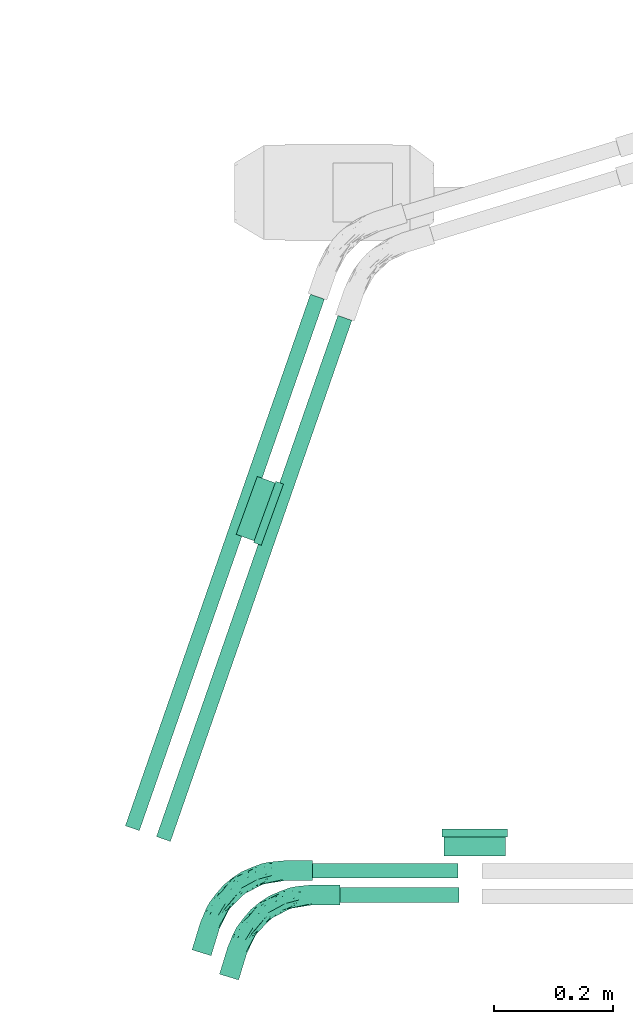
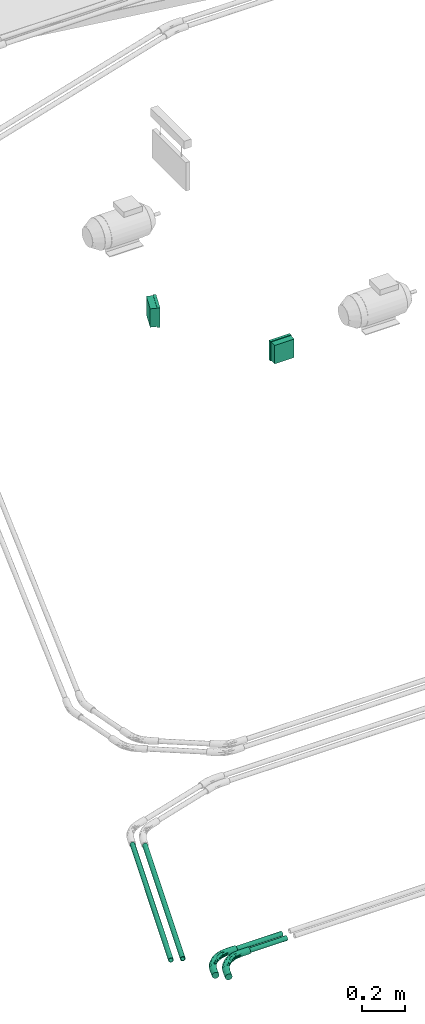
# One storey, part 2 of 22: 4 flow fittings, 4 flow segments.
"""IFC2X3 building model written with IfcOpenShell, lengths in millimetres."""

from ifc_helpers import new_model, entity, si_unit, converted_unit, derived_unit, direction, frame, origin_with_axes, origin_2d_with_axis, place, context, subcontext, project, spatial, hollow_circle, extrude, open_shell, surface_model, source, transform, mapped, type_object, element, save


model = new_model("IFC2X3")

# Units and contexts
model_context = context("Model", 3, precision=0.01, world=frame((0.0, 4.29681676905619e-09, 0.0)), true_north=direction((4.01073788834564e-13, 1.0)))
plan_context = context("Plan", 3, precision=0.01, world=frame((0.0, 4.29681676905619e-09, 0.0)), true_north=direction((4.01073788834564e-13, 1.0)))
body_context = subcontext(model_context, "Body", "Model", "MODEL_VIEW")
ifc_project = project(units=[converted_unit("PLANEANGLEUNIT", "DEGREE", entity("IfcPositiveLengthMeasure", 0.0174532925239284), si_unit("PLANEANGLEUNIT", "RADIAN"), dimensions=[0, 0, 0, 0, 0, 0, 0]), si_unit("AREAUNIT", "SQUARE_METRE"), si_unit("LENGTHUNIT", "METRE", prefix="MILLI"), si_unit("MASSUNIT", "GRAM", prefix="KILO"), si_unit("POWERUNIT", "WATT"), si_unit("PRESSUREUNIT", "PASCAL", prefix="KILO"), si_unit("FORCEUNIT", "NEWTON", prefix="KILO"), si_unit("ELECTRICVOLTAGEUNIT", "VOLT"), si_unit("ELECTRICCURRENTUNIT", "AMPERE"), si_unit("THERMODYNAMICTEMPERATUREUNIT", "DEGREE_CELSIUS"), si_unit("TIMEUNIT", "SECOND"), si_unit("VOLUMEUNIT", "CUBIC_METRE"), derived_unit("LINEARVELOCITYUNIT", [(si_unit("LENGTHUNIT", "METRE"), 1), (si_unit("TIMEUNIT", "SECOND"), -1)]), derived_unit("VOLUMETRICFLOWRATEUNIT", [(si_unit("VOLUMEUNIT", "CUBIC_METRE"), 1), (si_unit("TIMEUNIT", "SECOND"), -1)]), derived_unit("THERMALTRANSMITTANCEUNIT", [(si_unit("POWERUNIT", "WATT"), 1), (si_unit("THERMODYNAMICTEMPERATUREUNIT", "KELVIN"), -1), (si_unit("AREAUNIT", "SQUARE_METRE"), -1)]), derived_unit("SOUNDPRESSUREUNIT", [(si_unit("PRESSUREUNIT", "PASCAL"), 1)])], contexts=[model_context, plan_context])

# Site, building, storey
site_placement = place(None, frame((0.0, -4.29681676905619e-09, 0.0), z_axis=(0.0, 0.0, 1.0), x_axis=(1.0, 0.0, 0.0)))
site = spatial("IfcSite", under=ifc_project, at=site_placement, Name="ENGM", CompositionType="ELEMENT")
building_placement = place(site_placement, frame((0.0, 4.29681676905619e-09, 0.0), z_axis=(0.0, 0.0, 1.0), x_axis=(1.0, 0.0, 0.0)))
building = spatial("IfcBuilding", under=site, at=building_placement, Name="TI", CompositionType="ELEMENT")
storey_placement = place(building_placement, frame((0.0, 0.0, 210900.0), z_axis=(0.0, 0.0, 1.0), x_axis=(1.0, 0.0, 0.0)))
storey = spatial("IfcBuildingStorey", under=building, at=storey_placement, Name="Nivå F", CompositionType="ELEMENT", Elevation=210900.0)

# Flow fittings
cable_carrier_fitting_type = type_object("IfcCableCarrierFittingType", Name="Trekkerør, glatt bend", PredefinedType="BEND")
shared_shape_1 = source(origin_with_axes(), body_context, "Body", "SurfaceModel", [
    surface_model("IfcShellBasedSurfaceModel", [(-144.83616, 8.46055, -14.6541), (-144.83616, 4.3795, -16.34452), (-144.83616, 0.0, -16.92109), (-144.83616, 14.6541, -8.46055), (-144.83616, -8.46055, -14.6541), (-144.83616, 11.96502, -11.96502), (-144.83616, -16.92109, 0.0), (-144.83616, -16.34452, 4.3795), (-144.83616, -11.96502, -11.96502), (-144.83616, -14.6541, -8.46055), (-144.83616, -4.3795, -16.34452), (-144.83616, -16.34452, -4.3795), (-144.83616, 16.92109, 0.0), (-144.83616, 16.34452, -4.3795), (-144.83616, 16.34452, 4.3795), (-144.83616, 14.6541, 8.46055), (-144.83616, 8.46055, 14.6541), (-144.83616, 11.96502, 11.96502), (-144.83616, 0.0, 16.92109), (-144.83616, 4.3795, 16.34452), (-144.83616, -11.96502, 11.96502), (-144.83616, -8.46055, 14.6541), (-144.83616, -14.6541, 8.46055), (-144.83616, -4.3795, 16.34452), (-97.5182, -16.92109, 0.0), (-97.5182, -16.34452, 4.3795), (-97.5182, -14.6541, 8.46055), (-97.5182, -11.96502, 11.96502), (-97.5182, -8.46055, 14.6541), (-97.5182, -4.3795, 16.34452), (-97.5182, 0.0, 16.92109), (-97.5182, 4.3795, 16.34452), (-97.5182, 8.46055, 14.6541), (-97.5182, 11.96502, 11.96502), (-97.5182, 14.6541, 8.46055), (-97.5182, 16.34452, 4.3795), (-97.5182, 16.92109, 0.0), (-97.5182, 16.34452, -4.3795), (-97.5182, 14.6541, -8.46055), (-97.5182, 11.96502, -11.96502), (-97.5182, 8.46055, -14.6541), (-97.5182, 4.3795, -16.34452), (-97.5182, 0.0, -16.92109), (-97.5182, -4.3795, -16.34452), (-97.5182, -8.46055, -14.6541), (-97.5182, -11.96502, -11.96502), (-97.5182, -14.6541, -8.46055), (-97.5182, -16.34452, -4.3795), (16.90138, 61.62283, 16.74544), (28.51156, 93.25712, 16.92109), (14.59128, 66.41147, 16.80141), (-24.96889, 1.97658, 0.0), (-43.05229, -5.84501, 4.78595), (-60.03312, -12.11914, 0.0), (5.46892, 67.01508, 13.55745), (17.06936, 96.75535, 11.96502), (3.90246, 70.52636, 10.45944), (-71.299, -13.34893, 6.3159), (-72.3985, -14.5026, 3.05192), (-77.62003, 7.93822, 15.68444), (-65.68579, 14.36336, 13.55745), (-63.8039, -6.42333, 13.28828), (-40.53209, 16.58796, 16.60334), (-67.77568, 5.46313, 16.80141), (-42.51632, 11.97382, 16.92103), (-72.97787, -12.12532, 9.19826), (-75.57339, -4.85779, 15.57718), (-9.24433, 12.49299, 3.20205), (26.74105, 70.85092, 15.57718), (24.79711, 59.13797, 13.28828), (36.60242, 90.78349, 14.6541), (5.40998, 24.45577, 0.0), (29.14158, 53.86667, 0.0), (18.17688, 39.46219, 4.78595), (12.0027, 46.90053, 15.50404), (-7.62464, 31.23143, 16.6363), (-63.87169, 1.85391, 16.74544), (-68.58566, 16.88797, 10.45944), (-17.10764, 18.67897, 15.40958), (-2.33822, 22.12724, 10.30966), (-9.97434, 13.47954, 7.03775), (19.7328, 45.79714, 10.0469), (-64.90746, 21.25824, 3.53428), (-54.95893, 23.5856, 6.74978), (-25.38988, 6.40393, 10.995), (39.95377, 89.75888, 11.96502), (32.6997, 91.97667, 16.34452), (-1.76535, 45.52187, 16.6696), (-3.84064, 38.90898, 16.92061), (-39.58775, 32.13958, 3.64324), (44.14191, 88.47844, 4.3795), (42.52534, 88.97268, 8.46055), (33.61145, 64.28072, 6.3159), (-12.72505, 17.19692, 13.0563), (8.89844, 35.98287, 12.5036), (-49.56533, -5.48079, 10.0469), (44.69328, 88.30987, 0.0), (35.03618, 64.99488, 3.05192), (24.32342, 94.53756, 16.34452), (-8.50769, 51.44949, 12.04613), (-28.25733, 38.18759, 7.1231), (-15.4169, 51.00143, 3.25426), (32.93217, 66.24398, 9.19826), (-3.71288, 65.49324, 0.0), (1.61105, 72.90457, 3.79907), (12.32984, 98.20436, 0.0), (20.4207, 95.73074, 14.6541), (-29.19258, 39.4515, 0.0), (-20.11315, 27.18136, 16.83977), (-61.54595, 22.69901, 0.0), (14.49778, 97.54156, 8.46055), (12.88122, 98.03579, 4.3795), (-20.47335, 31.92081, 15.94792), (-6.48659, 59.45325, 6.74978), (15.10254, 76.54932, 15.68444), (1.3349, 54.30056, 15.75036), (-18.84049, 38.11958, 14.02913), (-37.84497, 10.17595, 16.51707), (-37.08531, 2.93506, 13.24325), (-48.36045, 2.23415, 15.50404), (-46.71399, 23.17832, 12.04613), (-41.21919, 22.78986, 14.26014), (-46.6087, 25.57068, 9.50309), (-26.92091, 36.38152, 10.70796), (-52.31817, 14.59938, 15.75036), (-10.49501, 52.40284, 9.51014), (-66.98382, 10.05261, -15.71193), (39.95377, 89.75888, -11.96502), (42.52534, 88.97268, -8.46055), (32.93217, 66.24398, -9.19826), (-64.8065, 1.62194, -16.74636), (-15.8116, 30.45865, -16.84332), (9.01866, 57.55436, -16.8096), (-4.64431, 34.57429, -16.71084), (-67.38693, 17.19105, -10.46612), (-1.26689, 68.37054, -3.64961), (-8.79599, 56.62308, -6.77272), (-19.74066, 46.74475, -3.56254), (-70.77066, 19.71871, -3.42419), (-58.59765, 22.23537, -6.72538), (-44.24272, 29.63819, -3.37977), (-31.40924, 36.11917, -6.78782), (-58.54802, 16.49213, -13.58793), (-34.62209, 31.1855, -10.65834), (33.61145, 64.28072, -6.3159), (44.14191, 88.47844, -4.3795), (17.06936, 96.75535, -11.96502), (2.52159, 68.27547, -10.4737), (14.49778, 97.54156, -8.46055), (-71.299, -13.34893, -6.3159), (-49.56533, -5.48079, -10.0469), (-43.05229, -5.84501, -4.78595), (-72.3985, -14.5026, -3.05192), (-9.97434, 13.47954, -7.03775), (19.7328, 45.79714, -10.0469), (18.17688, 39.46219, -4.78595), (-9.24433, 12.49299, -3.20205), (-72.97787, -12.12532, -9.19826), (-63.8039, -6.42333, -13.28828), (36.60242, 90.78349, -14.6541), (25.75491, 60.79494, -13.29601), (-77.81981, 3.58155, -16.79313), (17.14095, 54.07525, -15.52716), (7.66671, 37.454, -14.00156), (-0.12202, 33.37368, -15.54986), (-8.36274, 45.41802, -15.08941), (9.97081, 66.99604, -15.71193), (-3.23425, 46.56418, -16.2566), (12.88122, 98.03579, -4.3795), (11.64789, 78.23833, -13.50473), (5.72907, 78.52689, -6.52444), (32.6997, 91.97667, -16.34452), (18.13379, 63.70462, -16.74774), (28.51156, 93.25712, -16.92109), (24.32342, 94.53756, -16.34452), (-12.72505, 17.19692, -13.0563), (-20.47675, 8.70543, -10.30966), (-37.01224, 2.01075, -12.5036), (20.4207, 95.73074, -14.6541), (-26.5632, 32.73213, -13.69298), (-20.47675, 17.95267, -15.94395), (-48.36045, 2.23415, -15.50404), (-32.85381, 14.87465, -16.82329), (-44.03083, 19.60709, -15.16407), (-52.46944, 9.96501, -16.81379), (35.03618, 64.99488, -3.05192), (-1.86602, 56.49047, -13.60989), (1.29917, 26.15279, -10.995), (-13.25681, 47.21173, -11.51188), (-75.57339, -4.85779, -15.57718), (-22.67876, 30.64858, -15.83287), (46.53414, 137.22707, -16.34452), (42.346, 138.50752, -16.92109), (38.15786, 139.78796, -16.34452), (34.25514, 140.98114, -14.6541), (28.33221, 142.79196, -8.46055), (30.90379, 142.00575, -11.96502), (53.7882, 135.00928, 11.96502), (53.7882, 135.00928, -11.96502), (50.43686, 136.03389, -14.6541), (57.97634, 133.72884, -4.3795), (56.35978, 134.22308, -8.46055), (57.97634, 133.72884, 4.3795), (58.52772, 133.56027, 0.0), (26.71565, 143.28619, -4.3795), (26.16428, 143.45476, 0.0), (26.71565, 143.28619, 4.3795), (28.33221, 142.79196, 8.46055), (34.25514, 140.98114, 14.6541), (30.90379, 142.00575, 11.96502), (42.346, 138.50752, 16.92109), (38.15786, 139.78796, 16.34452), (56.35978, 134.22308, 8.46055), (50.43686, 136.03389, 14.6541), (46.53414, 137.22707, 16.34452)], [open_shell([[[0, 1, 2]], [[3, 0, 2]], [[4, 3, 2]], [[5, 0, 3]], [[3, 6, 7]], [[8, 9, 4]], [[2, 10, 4]], [[9, 11, 4]], [[11, 3, 4]], [[3, 11, 6]], [[12, 13, 3]], [[12, 7, 14]], [[14, 7, 15]], [[16, 17, 18]], [[15, 18, 17]], [[18, 19, 16]], [[20, 21, 22]], [[15, 7, 22]], [[23, 18, 21]], [[15, 22, 21]], [[15, 21, 18]], [[3, 7, 12]], [[7, 24, 25]], [[26, 22, 25]], [[21, 27, 28]], [[26, 27, 20]], [[23, 28, 29]], [[24, 7, 6]], [[25, 22, 7]], [[26, 20, 22]], [[27, 21, 20]], [[23, 21, 28]], [[29, 18, 23]], [[29, 30, 18]], [[16, 31, 32]], [[33, 17, 32]], [[14, 34, 35]], [[33, 34, 15]], [[12, 35, 36]], [[31, 19, 30]], [[31, 16, 19]], [[30, 19, 18]], [[32, 17, 16]], [[33, 15, 17]], [[14, 15, 34]], [[35, 12, 14]], [[13, 36, 37]], [[38, 3, 37]], [[0, 39, 40]], [[38, 39, 5]], [[1, 40, 41]], [[36, 13, 12]], [[37, 3, 13]], [[38, 5, 3]], [[39, 0, 5]], [[1, 0, 40]], [[41, 2, 1]], [[41, 42, 2]], [[4, 43, 44]], [[45, 8, 44]], [[11, 46, 47]], [[45, 46, 9]], [[6, 47, 24]], [[43, 10, 42]], [[43, 4, 10]], [[42, 10, 2]], [[44, 8, 4]], [[45, 9, 8]], [[11, 9, 46]], [[47, 6, 11]], [[48, 49, 50]], [[51, 52, 53]], [[54, 55, 56]], [[57, 58, 52]], [[58, 24, 53]], [[59, 60, 32]], [[61, 28, 27]], [[62, 63, 64]], [[27, 26, 65]], [[27, 65, 61]], [[29, 28, 66]], [[51, 67, 52]], [[68, 69, 70]], [[71, 72, 73]], [[74, 48, 75]], [[31, 59, 32]], [[29, 76, 30]], [[77, 34, 33]], [[31, 30, 63]], [[78, 74, 75]], [[79, 80, 81]], [[33, 60, 77]], [[66, 76, 29]], [[36, 35, 82]], [[83, 35, 34]], [[84, 80, 79]], [[30, 76, 63]], [[85, 70, 69]], [[51, 71, 67]], [[48, 86, 49]], [[86, 68, 70]], [[87, 88, 50]], [[82, 83, 89]], [[68, 48, 74]], [[90, 91, 92]], [[93, 79, 94]], [[65, 26, 57]], [[92, 81, 73]], [[81, 80, 73]], [[73, 80, 67]], [[80, 95, 52]], [[96, 90, 97]], [[49, 98, 50]], [[92, 97, 90]], [[54, 56, 99]], [[89, 100, 101]], [[102, 69, 81]], [[103, 104, 105]], [[54, 106, 55]], [[57, 26, 25]], [[107, 101, 103]], [[108, 88, 87]], [[109, 82, 89]], [[104, 110, 111]], [[32, 60, 33]], [[108, 112, 62]], [[101, 113, 104]], [[114, 54, 115]], [[114, 98, 106]], [[115, 54, 116]], [[113, 101, 100]], [[85, 69, 102]], [[76, 117, 64]], [[118, 61, 95]], [[94, 74, 93]], [[95, 84, 118]], [[66, 61, 119]], [[55, 110, 56]], [[54, 99, 116]], [[120, 121, 116]], [[122, 77, 120]], [[116, 123, 120]], [[124, 62, 112]], [[75, 108, 64]], [[117, 119, 78]], [[114, 50, 98]], [[87, 50, 115]], [[64, 63, 76]], [[59, 63, 124]], [[110, 113, 56]], [[56, 125, 99]], [[120, 77, 60]], [[83, 34, 77]], [[102, 92, 91]], [[97, 73, 72]], [[58, 57, 25]], [[95, 57, 52]], [[76, 119, 117]], [[62, 64, 108]], [[119, 118, 78]], [[75, 64, 117]], [[74, 78, 93]], [[75, 117, 78]], [[87, 112, 108]], [[63, 62, 124]], [[115, 116, 112]], [[112, 116, 121]], [[89, 101, 107]], [[113, 110, 104]], [[109, 89, 107]], [[89, 83, 100]], [[122, 100, 83]], [[125, 100, 123]], [[105, 104, 111]], [[103, 101, 104]], [[36, 82, 109]], [[35, 83, 82]], [[73, 97, 92]], [[96, 97, 72]], [[24, 58, 25]], [[52, 58, 53]], [[73, 67, 71]], [[52, 67, 80]], [[125, 56, 113]], [[116, 99, 123]], [[100, 125, 113]], [[123, 99, 125]], [[120, 60, 121]], [[122, 120, 123]], [[60, 124, 121]], [[112, 121, 124]], [[100, 122, 123]], [[77, 122, 83]], [[85, 102, 91]], [[81, 92, 102]], [[57, 95, 65]], [[65, 95, 61]], [[48, 68, 86]], [[69, 68, 74]], [[61, 66, 28]], [[76, 66, 119]], [[94, 81, 69]], [[84, 79, 93]], [[81, 94, 79]], [[74, 94, 69]], [[84, 93, 118]], [[80, 84, 95]], [[78, 118, 93]], [[119, 61, 118]], [[54, 114, 106]], [[50, 114, 115]], [[63, 59, 31]], [[60, 59, 124]], [[112, 87, 115]], [[88, 108, 75]], [[75, 48, 88]], [[50, 88, 48]], [[126, 41, 40]], [[127, 128, 129]], [[130, 43, 42]], [[131, 132, 133]], [[38, 134, 39]], [[135, 136, 137]], [[109, 138, 36]], [[139, 140, 141]], [[142, 134, 143]], [[144, 128, 145]], [[142, 40, 39]], [[146, 147, 148]], [[140, 109, 107]], [[142, 126, 40]], [[149, 150, 151]], [[149, 152, 47]], [[24, 47, 152]], [[153, 154, 155]], [[153, 156, 151]], [[150, 153, 151]], [[150, 157, 158]], [[159, 127, 160]], [[42, 161, 130]], [[46, 149, 47]], [[42, 41, 161]], [[158, 157, 45]], [[162, 163, 164]], [[134, 38, 139]], [[137, 141, 140]], [[165, 166, 167]], [[105, 168, 135]], [[37, 139, 38]], [[147, 146, 169]], [[135, 170, 136]], [[171, 172, 173]], [[51, 53, 151]], [[132, 166, 174]], [[175, 176, 177]], [[178, 174, 166]], [[179, 142, 143]], [[180, 181, 182]], [[169, 146, 178]], [[183, 184, 126]], [[173, 172, 132]], [[133, 132, 172]], [[133, 182, 131]], [[162, 171, 159]], [[156, 155, 71]], [[159, 160, 162]], [[174, 173, 132]], [[185, 155, 144]], [[179, 186, 165]], [[72, 185, 96]], [[187, 153, 176]], [[176, 153, 150]], [[72, 71, 155]], [[163, 162, 160]], [[51, 156, 71]], [[188, 136, 147]], [[44, 43, 189]], [[182, 181, 130]], [[103, 135, 137]], [[109, 140, 138]], [[45, 44, 158]], [[129, 128, 144]], [[189, 158, 44]], [[177, 181, 175]], [[188, 147, 186]], [[170, 147, 136]], [[182, 130, 184]], [[189, 130, 181]], [[183, 126, 142]], [[161, 126, 184]], [[143, 134, 139]], [[142, 39, 134]], [[171, 162, 172]], [[133, 172, 162]], [[167, 166, 132]], [[169, 166, 186]], [[129, 160, 127]], [[154, 187, 163]], [[131, 184, 190]], [[182, 133, 180]], [[184, 131, 182]], [[131, 190, 167]], [[164, 133, 162]], [[175, 181, 180]], [[157, 149, 46]], [[152, 151, 53]], [[185, 144, 145]], [[154, 144, 155]], [[137, 140, 107]], [[138, 139, 37]], [[188, 141, 136]], [[143, 139, 141]], [[103, 137, 107]], [[141, 137, 136]], [[105, 135, 103]], [[170, 135, 168]], [[168, 148, 170]], [[147, 170, 148]], [[139, 138, 140]], [[36, 138, 37]], [[154, 163, 160]], [[164, 175, 180]], [[175, 164, 163]], [[133, 164, 180]], [[151, 152, 149]], [[24, 152, 53]], [[96, 185, 145]], [[155, 185, 72]], [[151, 156, 51]], [[155, 156, 153]], [[45, 157, 46]], [[150, 149, 157]], [[144, 154, 129]], [[129, 154, 160]], [[130, 189, 43]], [[158, 189, 181]], [[177, 150, 158]], [[187, 176, 175]], [[150, 177, 176]], [[181, 177, 158]], [[163, 187, 175]], [[153, 187, 154]], [[166, 169, 178]], [[147, 169, 186]], [[179, 190, 183]], [[188, 179, 143]], [[126, 161, 41]], [[130, 161, 184]], [[179, 188, 186]], [[188, 143, 141]], [[179, 183, 142]], [[184, 183, 190]], [[131, 167, 132]], [[165, 167, 190]], [[179, 165, 190]], [[166, 165, 186]], [[191, 192, 193]], [[194, 191, 193]], [[191, 194, 195]], [[195, 194, 196]], [[191, 195, 197]], [[191, 198, 199]], [[198, 191, 200]], [[198, 200, 201]], [[200, 191, 197]], [[200, 202, 203]], [[195, 204, 205]], [[206, 207, 195]], [[207, 208, 195]], [[195, 208, 197]], [[208, 207, 209]], [[210, 208, 211]], [[202, 197, 212]], [[200, 197, 202]], [[213, 210, 214]], [[213, 197, 208]], [[210, 213, 208]], [[205, 206, 195]], [[90, 203, 202]], [[212, 91, 202]], [[70, 197, 213]], [[212, 197, 85]], [[86, 213, 214]], [[203, 90, 96]], [[202, 91, 90]], [[212, 85, 91]], [[197, 70, 85]], [[86, 70, 213]], [[214, 49, 86]], [[214, 210, 49]], [[106, 211, 208]], [[209, 55, 208]], [[111, 207, 206]], [[209, 207, 110]], [[105, 206, 205]], [[211, 98, 210]], [[211, 106, 98]], [[210, 98, 49]], [[208, 55, 106]], [[209, 110, 55]], [[111, 110, 207]], [[206, 105, 111]], [[105, 205, 204]], [[195, 168, 204]], [[194, 193, 174]], [[196, 194, 146]], [[148, 195, 196]], [[195, 148, 168]], [[168, 105, 204]], [[146, 194, 178]], [[178, 194, 174]], [[193, 173, 174]], [[146, 148, 196]], [[193, 192, 173]], [[159, 191, 199]], [[198, 127, 199]], [[145, 201, 200]], [[198, 201, 128]], [[96, 200, 203]], [[191, 171, 192]], [[191, 159, 171]], [[192, 171, 173]], [[199, 127, 159]], [[198, 128, 127]], [[145, 128, 201]], [[200, 96, 145]]])]),
])
for number, where, z_axis, x_axis, name in (
    (1, (582627.74628, 569814.34713, -56.7999999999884), (0.0, 0.0, 1.0), (-1.0, 0.0, 0.0), "Trekkerør, glatt bend"),
    (2, (582581.36311, 569855.32089, -56.7999999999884), (0.0, 0.0, 1.0), (-1.0, 0.0, 0.0), "Trekkerør, glatt bend"),
):
    element("IfcFlowFitting", number, at=place(storey_placement, frame(where, z_axis=z_axis, x_axis=x_axis)), inside=storey, type_object=cable_carrier_fitting_type, Name=name, context=body_context, shape_type="MappedRepresentation", body=[
        mapped(shared_shape_1, transform((0.0, 0.0, 0.0), scale=1.0)),
    ])
junction_box_type = type_object("IfcJunctionBoxType", Name="Junction box1", PredefinedType="NOTDEFINED")
shared_shape_2 = source(origin_with_axes(), body_context, "Body", "SurfaceModel", [
    surface_model("IfcShellBasedSurfaceModel", [(-55.0, 46.0, 55.0), (-55.0, 32.2, 55.0), (55.0, 32.2, 55.0), (55.0, 46.0, 55.0), (55.0, 46.0, -55.0), (55.0, 32.2, -55.0), (-55.0, 32.2, -55.0), (-55.0, 46.0, -55.0), (-52.0, 32.2, 52.0), (-52.0, 0.0, 52.0), (52.0, 0.0, 52.0), (52.0, 32.2, 52.0), (52.0, 32.2, -52.0), (52.0, 0.0, -52.0), (-52.0, 0.0, -52.0), (-52.0, 32.2, -52.0)], [open_shell([[[0, 1, 2]], [[2, 3, 0]], [[4, 5, 6]], [[6, 7, 4]], [[2, 1, 6]], [[6, 5, 2]], [[3, 2, 5]], [[5, 4, 3]], [[0, 3, 4]], [[4, 7, 0]], [[1, 0, 7]], [[7, 6, 1]], [[8, 9, 10]], [[10, 11, 8]], [[12, 13, 14]], [[14, 15, 12]], [[10, 9, 14]], [[14, 13, 10]], [[11, 10, 13]], [[13, 12, 11]], [[8, 11, 12]], [[12, 15, 8]], [[9, 8, 15]], [[15, 14, 9]]])]),
])
for number, where, z_axis, x_axis, name in (
    (3, (582615.2452, 570471.51406, 3200.0), (0.0, 0.0, 1.0), (-0.342019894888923, -0.939692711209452, 0.0), "Junction box1"),
    (4, (583000.0, 569879.99813, 3200.0), (0.0, 0.0, 1.0), (1.0, 0.0, 0.0), "Junction box1"),
):
    element("IfcFlowFitting", number, at=place(storey_placement, frame(where, z_axis=z_axis, x_axis=x_axis)), inside=storey, type_object=junction_box_type, Name=name, context=body_context, shape_type="MappedRepresentation", body=[
        mapped(shared_shape_2, transform((0.0, 0.0, 0.0), scale=1.0)),
    ])

# Flow segments
cable_carrier_segment_type = type_object("IfcCableCarrierSegmentType", Name="Trekkerør, korrugert", PredefinedType="CONDUITSEGMENT")
shared_shape_3 = source(origin_with_axes(), body_context, "Body", "SweptSolid", [
    extrude(hollow_circle(Radius=12.5, WallThickness=2.0, at=origin_2d_with_axis()), frame((0.0, 0.0, 0.0), z_axis=(1.0, 0.0, 0.0), x_axis=(0.0, 1.0, 0.0)), (0.0, 0.0, 1.0), 949.4),
])
flow_segment_1_placement = place(storey_placement, frame((582734.47046, 570823.52901, -56.7999999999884), z_axis=(0.0, 0.0, 1.0), x_axis=(-0.328832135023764, -0.944388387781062, 0.0)))
element("IfcFlowSegment", 5, at=flow_segment_1_placement, inside=storey, type_object=cable_carrier_segment_type, Name="Trekkerør, korrugert", context=body_context, shape_type="MappedRepresentation", body=[
    mapped(shared_shape_3, transform((0.0, 0.0, 0.0), scale=1.0)),
])
shared_shape_4 = source(origin_with_axes(), body_context, "Body", "SweptSolid", [
    extrude(hollow_circle(Radius=12.5, WallThickness=2.0, at=origin_2d_with_axis()), frame((0.0, 0.0, 0.0), z_axis=(1.0, 0.0, 0.0), x_axis=(0.0, 1.0, 0.0)), (0.0, 0.0, 1.0), 930.8),
])
flow_segment_2_placement = place(storey_placement, frame((582780.79219, 570787.69098, -56.7999999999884), z_axis=(0.0, 0.0, 1.0), x_axis=(-0.328832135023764, -0.944388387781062, 0.0)))
element("IfcFlowSegment", 6, at=flow_segment_2_placement, inside=storey, type_object=cable_carrier_segment_type, Name="Trekkerør, korrugert", context=body_context, shape_type="MappedRepresentation", body=[
    mapped(shared_shape_4, transform((0.0, 0.0, 0.0), scale=1.0)),
])
shared_shape_5 = source(origin_with_axes(), body_context, "Body", "SweptSolid", [
    extrude(hollow_circle(Radius=12.5, WallThickness=2.0, at=origin_2d_with_axis()), frame((0.0, 0.0, 0.0), z_axis=(1.0, 0.0, 0.0), x_axis=(0.0, 1.0, 0.0)), (0.0, 0.0, 1.0), 200.4),
])
flow_segment_3_placement = place(storey_placement, frame((582772.58245, 569814.34713, -56.7999999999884), z_axis=(0.0, 0.0, 1.0), x_axis=(1.0, 0.0, 0.0)))
element("IfcFlowSegment", 7, at=flow_segment_3_placement, inside=storey, type_object=cable_carrier_segment_type, Name="Trekkerør, korrugert", context=body_context, shape_type="MappedRepresentation", body=[
    mapped(shared_shape_5, transform((0.0, 0.0, 0.0), scale=1.0)),
])
shared_shape_6 = source(origin_with_axes(), body_context, "Body", "SweptSolid", [
    extrude(hollow_circle(Radius=12.5, WallThickness=2.0, at=origin_2d_with_axis()), frame((0.0, 0.0, 0.0), z_axis=(1.0, 0.0, 0.0), x_axis=(0.0, 1.0, 0.0)), (0.0, 0.0, 1.0), 245.5),
])
flow_segment_4_placement = place(storey_placement, frame((582726.19927, 569855.32089, -56.7999999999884), z_axis=(0.0, 0.0, 1.0), x_axis=(1.0, 0.0, 0.0)))
element("IfcFlowSegment", 8, at=flow_segment_4_placement, inside=storey, type_object=cable_carrier_segment_type, Name="Trekkerør, korrugert", context=body_context, shape_type="MappedRepresentation", body=[
    mapped(shared_shape_6, transform((0.0, 0.0, 0.0), scale=1.0)),
])

save(model, "model.ifc")
